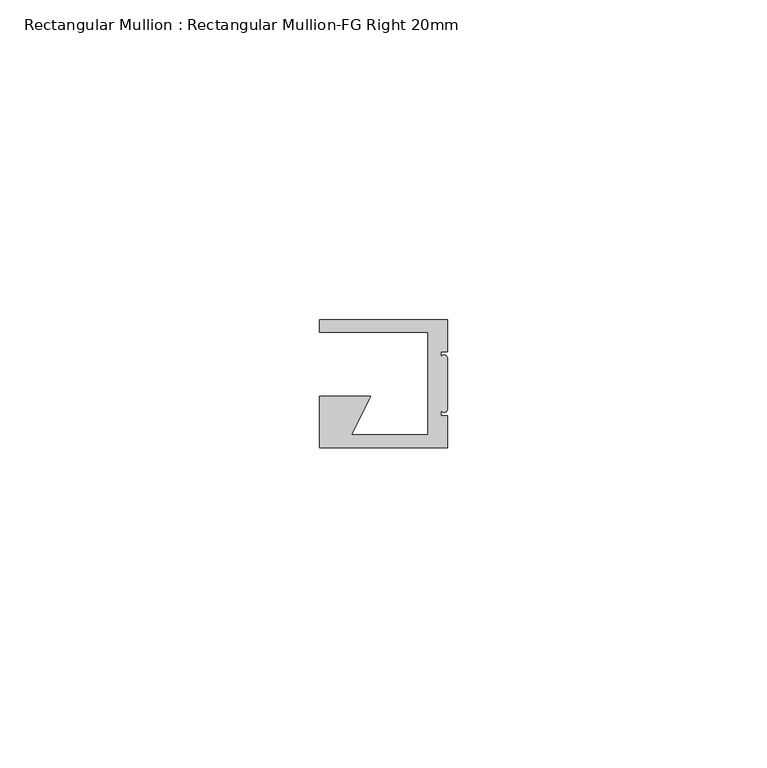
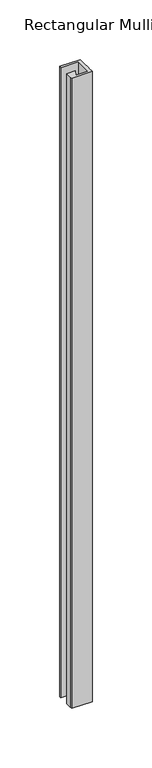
"""IFC4 building model written with IfcOpenShell, lengths in millimetres: member geometry, Rectangular Mullion : Rectangular Mullion-FG Right 20mm."""

from ifc_helpers import new_model, si_unit, frame, origin, place, context, project, spatial, circle_curve, source, transform, mapped, element, save
from ifc_brep_helpers import plane_surface, cylinder_surface, advanced_brep


def rectangular_mullion_rectangular_mullion_fg_right_20mm_d84e4cdc(model_context):
    return source(origin(), model_context, "Body", "AdvancedBrep", [
        advanced_brep(
        [(0.0, -5.0, 0.0), (0.0, 0.0, 0.0), (-20.0, 0.0, 0.0), (-20.0, -2.0, 0.0), (-3.0, -2.0, 0.0), (-3.0, -18.0, 0.0), (-15.0, -18.0, 0.0), (-12.0, -12.0, 0.0), (-20.0, -12.0, 0.0), (-20.0, -18.0, 0.0), (-20.0, -20.0, 0.0), (0.0, -20.0, 0.0), (0.0, -15.0, 0.0), (-1.0, -15.0, 0.0), (-1.0, -14.0, 0.0), (0.0, -14.0, 0.0), (0.0, -6.0, 0.0), (-1.0, -6.0, 0.0), (-1.0, -5.0, 0.0), (0.0, -5.0, -644.999955), (-1.0, -5.0, -644.999955), (-1.0, -6.0, -644.999955), (0.0, -6.0, -644.999955), (0.0, -14.0, -644.999955), (-1.0, -14.0, -644.999955), (-1.0, -15.0, -644.999955), (0.0, -15.0, -644.999955), (0.0, -20.0, -644.999955), (-20.0, -20.0, -644.999955), (-20.0, -18.0, -644.999955), (-20.0, -12.0, -644.999955), (-12.0, -12.0, -644.999955), (-15.0, -18.0, -644.999955), (-3.0, -18.0, -644.999955), (-3.0, -2.0, -644.999955), (-20.0, -2.0, -644.999955), (-20.0, 0.0, -644.999955), (0.0, 0.0, -644.999955)],
        [
            (0, 1),
            (1, 2),
            (2, 3),
            (3, 4),
            (4, 5),
            (5, 6),
            (6, 7),
            (7, 8),
            (8, 9),
            (9, 10),
            (10, 11),
            (11, 12),
            (12, 13),
            (13, 14),
            (14, 15, circle_curve(frame((-0.5, -14.0, 0.0), z_axis=(0.0, 0.0, 1.0), x_axis=(1.0, 0.0, 0.0)), 0.5)),
            (15, 16),
            (16, 17, circle_curve(frame((-0.5, -6.0, 0.0), z_axis=(0.0, 0.0, 1.0), x_axis=(1.0, 0.0, 0.0)), 0.5)),
            (17, 18),
            (18, 0),
            (19, 20),
            (20, 21),
            (21, 22, circle_curve(frame((-0.5, -6.0, -644.999955), z_axis=(0.0, 0.0, -1.0), x_axis=(1.0, 0.0, 0.0)), 0.5)),
            (22, 23),
            (23, 24, circle_curve(frame((-0.5, -14.0, -644.999955), z_axis=(0.0, 0.0, -1.0), x_axis=(1.0, 0.0, 0.0)), 0.5)),
            (24, 25),
            (25, 26),
            (26, 27),
            (27, 28),
            (28, 29),
            (29, 30),
            (30, 31),
            (31, 32),
            (32, 33),
            (33, 34),
            (34, 35),
            (35, 36),
            (36, 37),
            (37, 19),
            (0, 19),
            (37, 1),
            (36, 2),
            (35, 3),
            (34, 4),
            (33, 5),
            (32, 6),
            (31, 7),
            (30, 8),
            (29, 9),
            (28, 10),
            (27, 11),
            (26, 12),
            (25, 13),
            (24, 14),
            (23, 15),
            (22, 16),
            (21, 17),
            (20, 18),
        ],
        [
            plane_surface(frame((0.0, -28.2842712, 0.0), z_axis=(0.0, 0.0, 1.0), x_axis=(-1.0, 0.0, 0.0))),
            plane_surface(frame((0.0, -28.2842712, -644.999955), z_axis=(0.0, 0.0, -1.0), x_axis=(-1.0, 0.0, 0.0))),
            plane_surface(frame((0.0, -5.0, 0.0), z_axis=(1.0, 0.0, 0.0), x_axis=(0.0, 0.0, -1.0))),
            plane_surface(frame((0.0, 0.0, 0.0), z_axis=(0.0, 1.0, 0.0), x_axis=(0.0, 0.0, -1.0))),
            plane_surface(frame((-20.0, 0.0, 0.0), z_axis=(-1.0, 0.0, 0.0), x_axis=(0.0, 0.0, -1.0))),
            plane_surface(frame((-20.0, -2.0, 0.0), z_axis=(0.0, -1.0, 0.0), x_axis=(0.0, 0.0, -1.0))),
            plane_surface(frame((-3.0, -2.0, 0.0), z_axis=(-1.0, 0.0, 0.0), x_axis=(0.0, 0.0, -1.0))),
            plane_surface(frame((-3.0, -18.0, 0.0), z_axis=(0.0, 1.0, 0.0), x_axis=(0.0, 0.0, -1.0))),
            plane_surface(frame((-15.0, -18.0, 0.0), z_axis=(0.8944271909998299, -0.4472135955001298, 0.0), x_axis=(0.0, 0.0, -1.0))),
            plane_surface(frame((-12.0, -12.0, 0.0), z_axis=(0.0, 1.0, 0.0), x_axis=(0.0, 0.0, -1.0))),
            plane_surface(frame((-20.0, -12.0, 0.0), z_axis=(-1.0, 0.0, 0.0), x_axis=(0.0, 0.0, -1.0))),
            plane_surface(frame((-20.0, -18.0, 0.0), z_axis=(-1.0, 0.0, 0.0), x_axis=(0.0, 0.0, -1.0))),
            plane_surface(frame((-20.0, -20.0, 0.0), z_axis=(0.0, -1.0, 0.0), x_axis=(0.0, 0.0, -1.0))),
            plane_surface(frame((0.0, -20.0, 0.0), z_axis=(1.0, 0.0, 0.0), x_axis=(0.0, 0.0, -1.0))),
            plane_surface(frame((0.0, -15.0, 0.0), z_axis=(0.0, 1.0, 0.0), x_axis=(0.0, 0.0, -1.0))),
            plane_surface(frame((-1.0, -15.0, 0.0), z_axis=(1.0, 0.0, 0.0), x_axis=(0.0, 0.0, -1.0))),
            cylinder_surface(frame((-0.5, -14.0, 0.0), z_axis=(0.0, 0.0, 1.0), x_axis=(1.0, 0.0, 0.0)), 0.5),
            plane_surface(frame((0.0, -14.0, 0.0), z_axis=(1.0, 0.0, 0.0), x_axis=(0.0, 0.0, -1.0))),
            cylinder_surface(frame((-0.5, -6.0, 0.0), z_axis=(0.0, 0.0, 1.0), x_axis=(1.0, 0.0, 0.0)), 0.5),
            plane_surface(frame((-1.0, -6.0, 0.0), z_axis=(1.0, 0.0, 0.0), x_axis=(0.0, 0.0, -1.0))),
            plane_surface(frame((-1.0, -5.0, 0.0), z_axis=(0.0, -1.0, 0.0), x_axis=(0.0, 0.0, -1.0))),
        ],
        [
            (0, [[1, 2, 3, 4, 5, 6, 7, 8, 9, 10, 11, 12, 13, 14, 15, 16, 17, 18, 19]]),
            (1, [[20, 21, 22, 23, 24, 25, 26, 27, 28, 29, 30, 31, 32, 33, 34, 35, 36, 37, 38]]),
            (2, [[-1, 39, -38, 40]]),
            (3, [[-2, -40, -37, 41]]),
            (4, [[-3, -41, -36, 42]]),
            (5, [[-4, -42, -35, 43]]),
            (6, [[-5, -43, -34, 44]]),
            (7, [[-6, -44, -33, 45]]),
            (8, [[-7, -45, -32, 46]]),
            (9, [[-8, -46, -31, 47]]),
            (10, [[-9, -47, -30, 48]]),
            (11, [[-10, -48, -29, 49]]),
            (12, [[-11, -49, -28, 50]]),
            (13, [[-12, -50, -27, 51]]),
            (14, [[-13, -51, -26, 52]]),
            (15, [[-14, -52, -25, 53]]),
            (16, [[-15, -53, -24, 54]]),
            (17, [[-16, -54, -23, 55]]),
            (18, [[-17, -55, -22, 56]]),
            (19, [[-18, -56, -21, 57]]),
            (20, [[-19, -57, -20, -39]]),
        ],
    ),
    ])


if __name__ == "__main__":
    model = new_model("IFC4")
    model_context = context("Model", 3, world=origin())
    ifc_project = project(units=[si_unit("LENGTHUNIT", "METRE", prefix="MILLI")], contexts=[model_context])
    site = spatial("IfcSite", under=ifc_project)
    building = spatial("IfcBuilding", under=site)
    placement = place(None, origin())
    rectangular_mullion_rectangular_mullion_fg_right_20mm_shape = rectangular_mullion_rectangular_mullion_fg_right_20mm_d84e4cdc(model_context)
    element("IfcMember", 1, ObjectType="Rectangular Mullion : Rectangular Mullion-FG Right 20mm", at=placement, inside=building, context=model_context, shape_type="MappedRepresentation", body=[
        mapped(rectangular_mullion_rectangular_mullion_fg_right_20mm_shape, transform((0.0, 0.0, 0.0), x_axis=(1.0, 0.0, 0.0), y_axis=(0.0, 1.0, 0.0), z_axis=(0.0, 0.0, 1.0))),
    ])
    save(model, "model.ifc")
